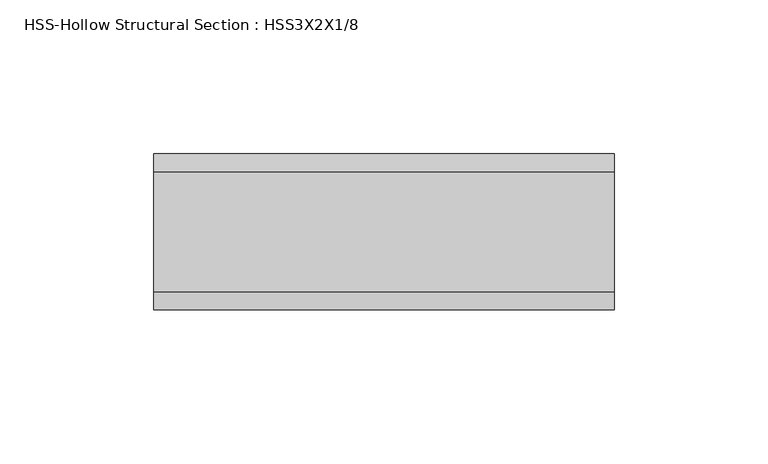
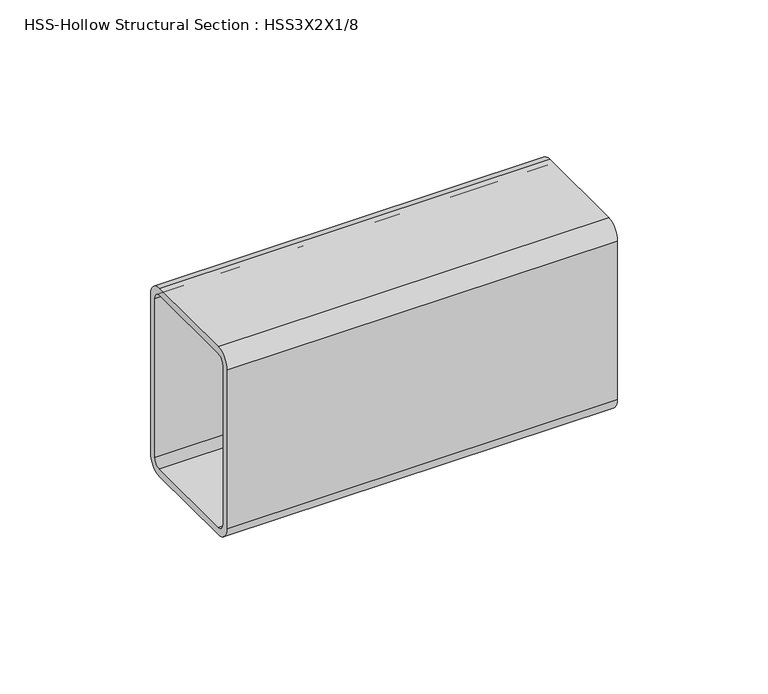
"""IFC4 building model written with IfcOpenShell, lengths in millimetres: beam geometry, HSS-Hollow Structural Section : HSS3X2X1/8."""

from ifc_helpers import new_model, si_unit, point, frame, frame_2d, origin, place, context, project, spatial, polyline, circle_curve, trimmed, segment, composite_curve, outline, extrude, source, transform, mapped, element, save


def hss_hollow_structural_section_hss3x2x1_8_a8fac2c2(model_context):
    return source(origin(), model_context, "Body", "SweptSolid", [
        extrude(outline(composite_curve([segment(polyline([(25.4, 32.2072), (25.4, -32.2072)]), True, "CONTINUOUS"), segment(trimmed(circle_curve(frame_2d((19.5072, -32.2072)), 5.8928), [point((25.4, -32.2072))], [point((19.5072, -38.1))], False, "CARTESIAN"), True, "CONTINUOUS"), segment(polyline([(19.5072, -38.1), (-19.5072, -38.1)]), True, "CONTINUOUS"), segment(trimmed(circle_curve(frame_2d((-19.5072, -32.2072)), 5.8928), [point((-19.5072, -38.1))], [point((-25.4, -32.2072))], False, "CARTESIAN"), True, "CONTINUOUS"), segment(polyline([(-25.4, -32.2072), (-25.4, 32.2072)]), True, "CONTINUOUS"), segment(trimmed(circle_curve(frame_2d((-19.5072, 32.2072)), 5.8928), [point((-25.4, 32.2072))], [point((-19.5072, 38.1))], False, "CARTESIAN"), True, "CONTINUOUS"), segment(polyline([(-19.5072, 38.1), (19.5072, 38.1)]), True, "CONTINUOUS"), segment(trimmed(circle_curve(frame_2d((19.5072, 32.2072)), 5.8928), [point((19.5072, 38.1))], [point((25.4, 32.2072))], False, "CARTESIAN"), True, "CONTINUOUS")], self_intersect=False), holes=[composite_curve([segment(trimmed(circle_curve(frame_2d((-19.5072, 32.2072)), 2.9464), [point((-19.5072, 35.1536))], [point((-22.4536, 32.2072))], True, "CARTESIAN"), True, "CONTINUOUS"), segment(polyline([(-22.4536, 32.2072), (-22.4536, -32.2072)]), True, "CONTINUOUS"), segment(trimmed(circle_curve(frame_2d((-19.5072, -32.2072)), 2.9464), [point((-22.4536, -32.2072))], [point((-19.5072, -35.1536))], True, "CARTESIAN"), True, "CONTINUOUS"), segment(polyline([(-19.5072, -35.1536), (19.5072, -35.1536)]), True, "CONTINUOUS"), segment(trimmed(circle_curve(frame_2d((19.5072, -32.2072)), 2.9464), [point((19.5072, -35.1536))], [point((22.4536, -32.2072))], True, "CARTESIAN"), True, "CONTINUOUS"), segment(polyline([(22.4536, -32.2072), (22.4536, 32.2072)]), True, "CONTINUOUS"), segment(trimmed(circle_curve(frame_2d((19.5072, 32.2072)), 2.9464), [point((22.4536, 32.2072))], [point((19.5072, 35.1536))], True, "CARTESIAN"), True, "CONTINUOUS"), segment(polyline([(19.5072, 35.1536), (-19.5072, 35.1536)]), True, "CONTINUOUS")], self_intersect=False)]), frame((-27.5505655, 0.0, 0.0), z_axis=(1.0, 0.0, 0.0), x_axis=(0.0, 1.0, 0.0)), (0.0, 0.0, 1.0), 149.7871723),
    ])


if __name__ == "__main__":
    model = new_model("IFC4")
    model_context = context("Model", 3, world=origin())
    ifc_project = project(units=[si_unit("LENGTHUNIT", "METRE", prefix="MILLI")], contexts=[model_context])
    site = spatial("IfcSite", under=ifc_project)
    building = spatial("IfcBuilding", under=site)
    placement = place(None, origin())
    hss_hollow_structural_section_hss3x2x1_8_shape = hss_hollow_structural_section_hss3x2x1_8_a8fac2c2(model_context)
    element("IfcBeam", 1, ObjectType="HSS-Hollow Structural Section : HSS3X2X1/8", at=placement, inside=building, context=model_context, shape_type="MappedRepresentation", body=[
        mapped(hss_hollow_structural_section_hss3x2x1_8_shape, transform((0.0, 0.0, 0.0), x_axis=(1.0, 0.0, 0.0), y_axis=(0.0, 1.0, 0.0), z_axis=(0.0, 0.0, 1.0))),
    ])
    save(model, "model.ifc")
